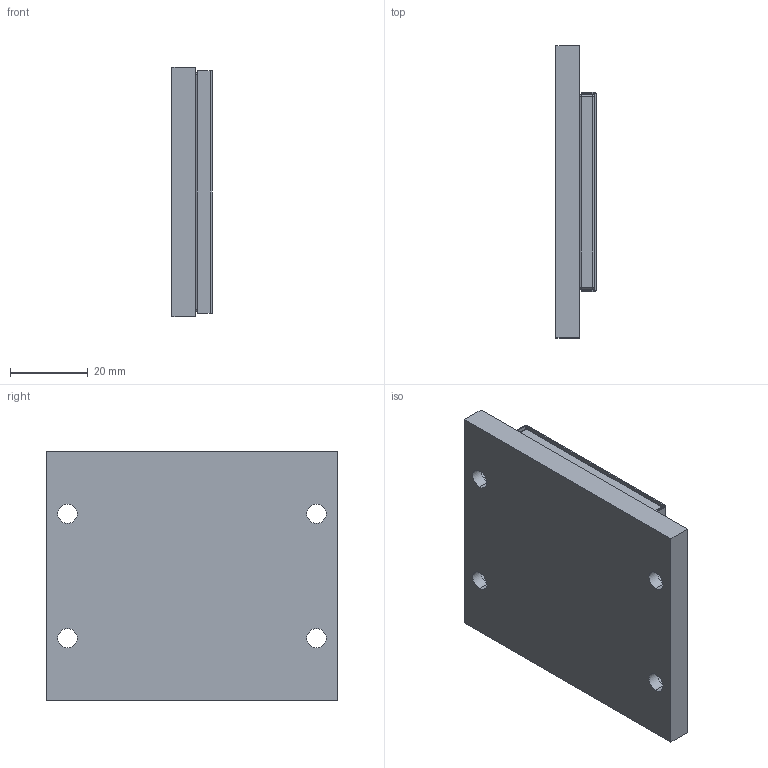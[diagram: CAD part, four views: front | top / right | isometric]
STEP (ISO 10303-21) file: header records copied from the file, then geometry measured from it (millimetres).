
FILE_DESCRIPTION (( 'STEP AP214' ), '1' );
FILE_NAME ('PIXM050-TL064-C.STEP', '2019-03-08T10:33:00', ( '' ), ( '' ), 'SwSTEP 2.0', 'SolidWorks 2016', '' );
FILE_SCHEMA (( 'AUTOMOTIVE_DESIGN' ));
Length unit declared in the file: millimetre
Products named in the file (4): 001SM050LXXX02_TL064; 001SM050000001-CUSTOMER_TL064; 001SM050LXXX01_TL64; PIXM050-TL064-C
Assembly tree (3 placements, depth 2):
  PIXM050-TL064-C
    001SM050LXXX01_TL64
    001SM050000001-CUSTOMER_TL064
    001SM050LXXX02_TL064
Bounding box: 10.3 x 75 x 64 mm (x, y, z)
Volume: 41240.4 mm3; surface area: 25852.9 mm2
Topology: 3 solids, 3 shells, 85 faces, 190 edges, 108 vertices
Faces by surface type: plane 45, cylinder 32, sphere 8
Entity records: 2430 total; most frequent: DIRECTION 428, CARTESIAN_POINT 381, ORIENTED_EDGE 364, EDGE_CURVE 182, AXIS2_PLACEMENT_3D 155, LINE 118, VECTOR 118, VERTEX_POINT 108
